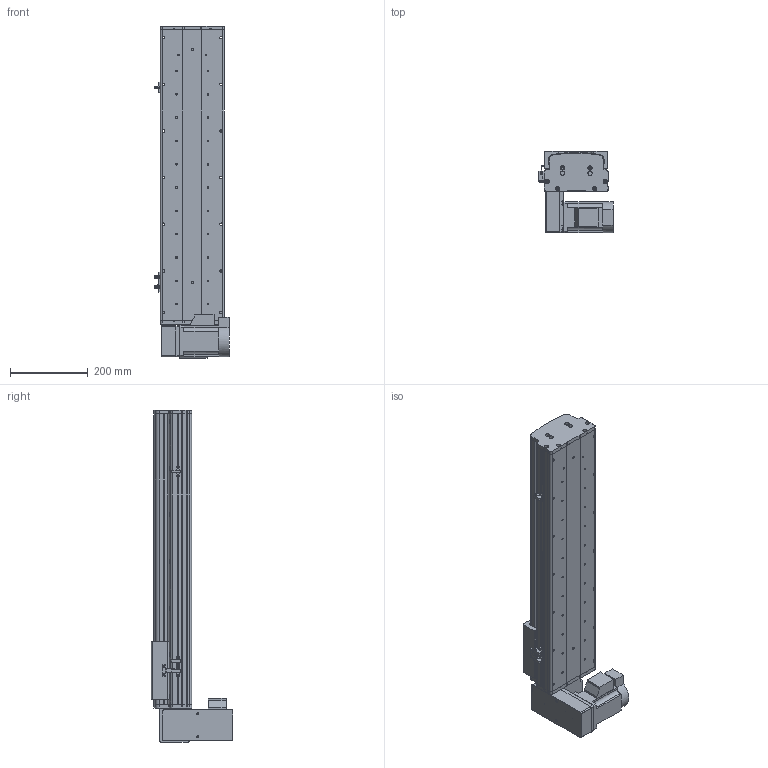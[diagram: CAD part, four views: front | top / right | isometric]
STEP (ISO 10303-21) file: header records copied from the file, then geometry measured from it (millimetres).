
FILE_DESCRIPTION (( 'STEP AP214' ), '1' );
FILE_NAME ('KSD165B-S500-MLD-CM.STEP', '2017-10-16T06:57:11', ( '微软用户' ), ( '微软中国' ), 'SwSTEP 2.0', 'SolidWorks 2014', '' );
FILE_SCHEMA (( 'AUTOMOTIVE_DESIGN' ));
Length unit declared in the file: millimetre
Products named in the file (18): 拸秶雄ん750W侜督萇儂; 165宽马达安装板同步带左-改; 肣翐M4X35樓6; HTPA26S5M250-A-H8 750W萇儂蚚; HTPA26S5M250-A-H8 400W萇儂蚚 ; 130宽模组保护罩上下左右折-同步带; 130宽模组马达安装板连板上下折丝杆同步带; KSD165模组-同步带防尘盖1-500行程-最新版; U倰嫖萇假蚾璃; U倰嫖萇EEㄜSX672; 覜茼え68遵圉猾敕; KSD165模组-同步带-防撞垫2; KSD165模组同步带-防撞垫1; KSD165耀郪-ヶ傷啣1-肮祭湍; KSD165模组-后端板1-同步带; KSD165模组-同步带滑动座-最新版; KSD165模组同步带底板-500行程-最新; KSD165B-S500-MLD-CM
Assembly tree (22 placements, depth 2):
  KSD165B-S500-MLD-CM
    KSD165模组同步带底板-500行程-最新
    KSD165模组-同步带滑动座-最新版
    KSD165模组-后端板1-同步带
    KSD165耀郪-ヶ傷啣1-肮祭湍
    KSD165模组同步带-防撞垫1
    KSD165模组-同步带-防撞垫2
    覜茼え68遵圉猾敕
    U倰嫖萇EEㄜSX672  x3
    U倰嫖萇假蚾璃  x3
    KSD165模组-同步带防尘盖1-500行程-最新版
    130宽模组马达安装板连板上下折丝杆同步带
    130宽模组保护罩上下左右折-同步带
    HTPA26S5M250-A-H8 400W萇儂蚚 
    HTPA26S5M250-A-H8 750W萇儂蚚
    肣翐M4X35樓6  x2
    165宽马达安装板同步带左-改
    拸秶雄ん750W侜督萇儂
Bounding box: 191.2 x 210 x 854 mm (x, y, z)
Volume: 5661660.8 mm3; surface area: 1313147.9 mm2
Topology: 23 solids, 24 shells, 1933 faces, 5426 edges, 3538 vertices
Faces by surface type: cylinder 1217, plane 600, cone 116
Entity records: 61650 total; most frequent: CARTESIAN_POINT 12616, DIRECTION 10176, ORIENTED_EDGE 9440, EDGE_CURVE 4720, AXIS2_PLACEMENT_3D 3979, VERTEX_POINT 3109, CIRCLE 2256, VECTOR 2218
